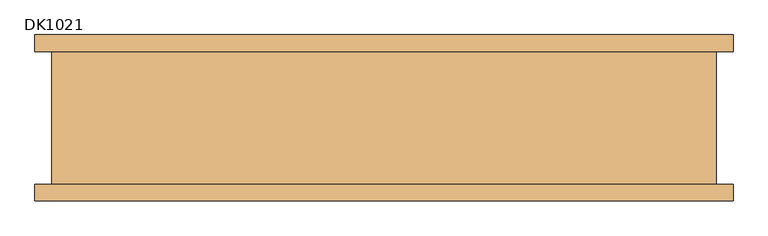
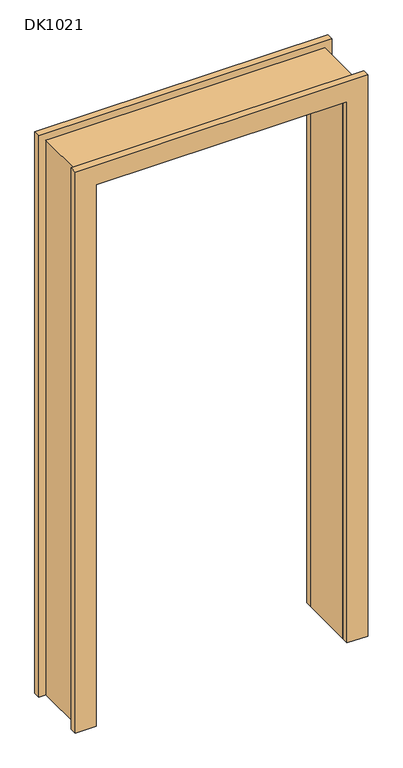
"""IFC4 building model written with IfcOpenShell, lengths in millimetres: door geometry, 门洞 : DK1021."""

from ifc_helpers import new_model, si_unit, frame, origin, place, context, project, spatial, polyline, outline, extrude, source, transform, mapped, element, save


def dk1021_b80b9dc6(model_context):
    return source(origin(), model_context, "Body", "SweptSolid", [
        extrude(outline(polyline([(2100.0, -500.0), (0.0, -500.0), (0.0, -450.0), (2050.0, -450.0), (2050.0, 450.0), (0.0, 450.0), (0.0, 500.0), (2100.0, 500.0), (2100.0, -500.0)])), frame((0.0, -100.0, 0.0), z_axis=(0.0, 1.0, 0.0), x_axis=(0.0, 0.0, 1.0)), (0.0, 0.0, 1.0), 200.0),
        extrude(outline(polyline([(2125.0, -525.0), (0.0, -525.0), (0.0, -450.0), (2050.0, -450.0), (2050.0, 450.0), (0.0, 450.0), (0.0, 525.0), (2125.0, 525.0), (2125.0, -525.0)])), frame((0.0, 100.0, 0.0), z_axis=(0.0, 1.0, 0.0), x_axis=(0.0, 0.0, 1.0)), (0.0, 0.0, 1.0), 25.0),
        extrude(outline(polyline([(2125.0, -525.0), (0.0, -525.0), (0.0, -450.0), (2050.0, -450.0), (2050.0, 450.0), (0.0, 450.0), (0.0, 525.0), (2125.0, 525.0), (2125.0, -525.0)])), frame((0.0, -125.0, 0.0), z_axis=(0.0, 1.0, 0.0), x_axis=(0.0, 0.0, 1.0)), (0.0, 0.0, 1.0), 25.0),
    ])


if __name__ == "__main__":
    model = new_model("IFC4")
    model_context = context("Model", 3, world=origin())
    ifc_project = project(units=[si_unit("LENGTHUNIT", "METRE", prefix="MILLI")], contexts=[model_context])
    site = spatial("IfcSite", under=ifc_project)
    building = spatial("IfcBuilding", under=site)
    placement = place(None, origin())
    dk1021_shape = dk1021_b80b9dc6(model_context)
    element("IfcDoor", 1, ObjectType="门洞 : DK1021", at=placement, inside=building, context=model_context, shape_type="MappedRepresentation", body=[
        mapped(dk1021_shape, transform((0.0, 0.0, 0.0), x_axis=(1.0, 0.0, 0.0), y_axis=(0.0, 1.0, 0.0), z_axis=(0.0, 0.0, 1.0))),
    ])
    save(model, "model.ifc")
